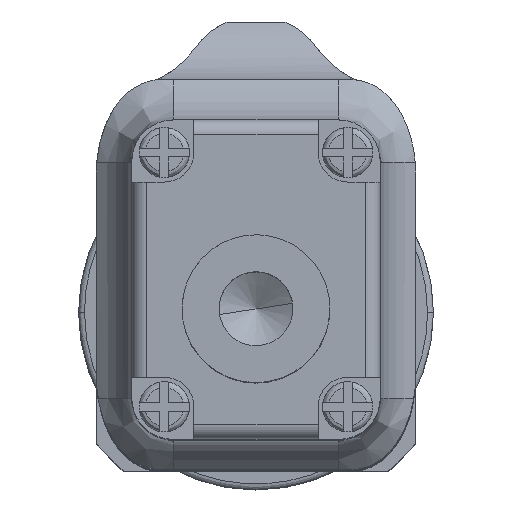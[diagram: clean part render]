
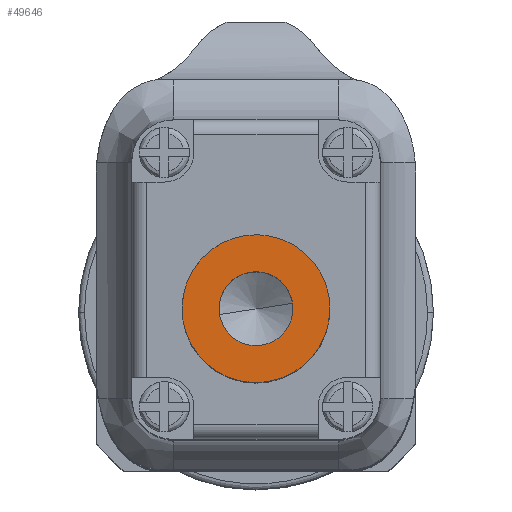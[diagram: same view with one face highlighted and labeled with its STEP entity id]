
A CAD part, top view. The second image highlights one B-rep face of the part: STEP entity #49646.
In plain terms, the highlighted planar face has unit normal (0, 0, 1) as drawn and (0, 0, -1) by its records, which use the part's own axes.
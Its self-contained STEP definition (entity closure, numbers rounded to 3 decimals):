
#2177 = AXIS2_PLACEMENT_3D ( 'NONE', #69970, #74754, #35369 ) ;
#2971 = EDGE_LOOP ( 'NONE', ( #69635, #32919 ) ) ;
#3435 = PLANE ( 'NONE',  #57534 ) ;
#7088 = CIRCLE ( 'NONE', #65510, 1.25 ) ;
#8615 = AXIS2_PLACEMENT_3D ( 'NONE', #61198, #9977, #50300 ) ;
#9977 = DIRECTION ( 'NONE',  ( 0., 0., 1. ) ) ;
#11634 = DIRECTION ( 'NONE',  ( -1., 0., 0. ) ) ;
#15283 = FACE_OUTER_BOUND ( 'NONE', #66967, .T. ) ;
#17153 = CARTESIAN_POINT ( 'NONE',  ( 0., 0., 0. ) ) ;
#17412 = CARTESIAN_POINT ( 'NONE',  ( -1.25, 0., 0. ) ) ;
#18125 = EDGE_CURVE ( 'NONE', #64266, #43791, #24593, .T. ) ;
#20738 = VERTEX_POINT ( 'NONE', #31585 ) ;
#22099 = DIRECTION ( 'NONE',  ( 0., 0., -1. ) ) ;
#22745 = EDGE_CURVE ( 'NONE', #20738, #27302, #7088, .T. ) ;
#24593 = CIRCLE ( 'NONE', #2177, 2.5 ) ;
#26805 = ORIENTED_EDGE ( 'NONE', *, *, #18125, .F. ) ;
#27302 = VERTEX_POINT ( 'NONE', #17412 ) ;
#28518 = DIRECTION ( 'NONE',  ( 0., 0., -1. ) ) ;
#29673 = CIRCLE ( 'NONE', #30727, 1.25 ) ;
#29925 = ORIENTED_EDGE ( 'NONE', *, *, #55131, .F. ) ;
#30727 = AXIS2_PLACEMENT_3D ( 'NONE', #17153, #28518, #11634 ) ;
#31585 = CARTESIAN_POINT ( 'NONE',  ( 1.25, 0., 0. ) ) ;
#32919 = ORIENTED_EDGE ( 'NONE', *, *, #22745, .F. ) ;
#35369 = DIRECTION ( 'NONE',  ( -1., 0., 0. ) ) ;
#36483 = CARTESIAN_POINT ( 'NONE',  ( -2.5, 0., 0. ) ) ;
#37247 = CIRCLE ( 'NONE', #8615, 2.5 ) ;
#41662 = EDGE_CURVE ( 'NONE', #27302, #20738, #29673, .T. ) ;
#43587 = DIRECTION ( 'NONE',  ( 1., 0., 0. ) ) ;
#43791 = VERTEX_POINT ( 'NONE', #36483 ) ;
#46375 = DIRECTION ( 'NONE',  ( -1., 0., 0. ) ) ;
#49646 = ADVANCED_FACE ( 'NONE', ( #15283, #63189 ), #3435, .F. ) ;
#50300 = DIRECTION ( 'NONE',  ( -1., 0., 0. ) ) ;
#54658 = CARTESIAN_POINT ( 'NONE',  ( 0., 0., 0. ) ) ;
#55131 = EDGE_CURVE ( 'NONE', #43791, #64266, #37247, .T. ) ;
#57534 = AXIS2_PLACEMENT_3D ( 'NONE', #54658, #60969, #43587 ) ;
#60969 = DIRECTION ( 'NONE',  ( 0., 0., 1. ) ) ;
#61198 = CARTESIAN_POINT ( 'NONE',  ( 0., 0., 0. ) ) ;
#63189 = FACE_BOUND ( 'NONE', #2971, .T. ) ;
#63300 = CARTESIAN_POINT ( 'NONE',  ( 0., 0., 0. ) ) ;
#64266 = VERTEX_POINT ( 'NONE', #73592 ) ;
#65510 = AXIS2_PLACEMENT_3D ( 'NONE', #63300, #22099, #46375 ) ;
#66967 = EDGE_LOOP ( 'NONE', ( #29925, #26805 ) ) ;
#69635 = ORIENTED_EDGE ( 'NONE', *, *, #41662, .F. ) ;
#69970 = CARTESIAN_POINT ( 'NONE',  ( 0., 0., 0. ) ) ;
#73592 = CARTESIAN_POINT ( 'NONE',  ( 2.5, 0., 0. ) ) ;
#74754 = DIRECTION ( 'NONE',  ( 0., 0., 1. ) ) ;
